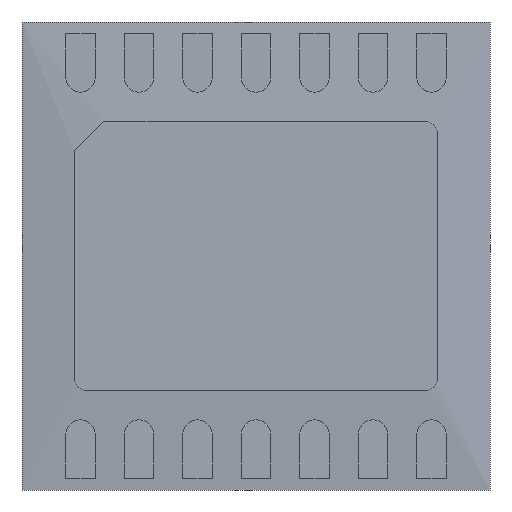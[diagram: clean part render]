
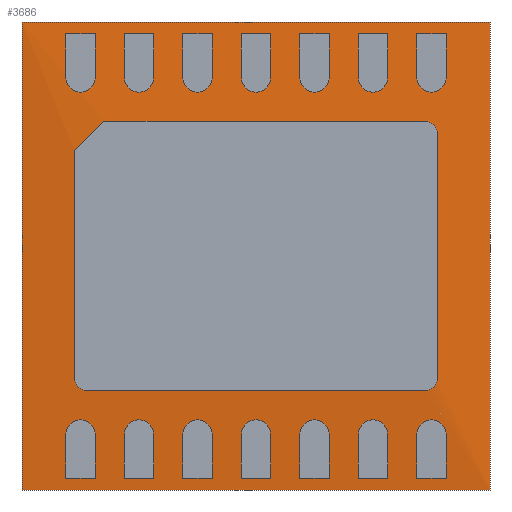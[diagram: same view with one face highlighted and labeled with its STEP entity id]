
A CAD part, front view. The second image highlights one B-rep face of the part: STEP entity #3686.
In plain terms, the highlighted planar face has unit normal (0, -1, 0).
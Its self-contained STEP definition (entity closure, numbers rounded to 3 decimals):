
#3460 = CARTESIAN_POINT ( 'NONE',  ( -2., 0.05, -2. ) ) ;
#3461 = VERTEX_POINT ( 'NONE', #3460 ) ;
#3462 = CARTESIAN_POINT ( 'NONE',  ( -2., 0.05, 2. ) ) ;
#3463 = VERTEX_POINT ( 'NONE', #3462 ) ;
#3464 = CARTESIAN_POINT ( 'NONE',  ( -2., 0.05, 2. ) ) ;
#3465 = DIRECTION ( 'NONE',  ( 0., 0., 1. ) ) ;
#3466 = VECTOR ( 'NONE', #3465, 1000. ) ;
#3467 = LINE ( 'NONE', #3464, #3466 ) ;
#3468 = EDGE_CURVE ( 'NONE', #3461, #3463, #3467, .T. ) ;
#3500 = CARTESIAN_POINT ( 'NONE',  ( 2., 0.05, 2. ) ) ;
#3501 = VERTEX_POINT ( 'NONE', #3500 ) ;
#3502 = CARTESIAN_POINT ( 'NONE',  ( 2., 0.05, 2. ) ) ;
#3503 = DIRECTION ( 'NONE',  ( 1., 0., 0. ) ) ;
#3504 = VECTOR ( 'NONE', #3503, 1000. ) ;
#3505 = LINE ( 'NONE', #3502, #3504 ) ;
#3506 = EDGE_CURVE ( 'NONE', #3463, #3501, #3505, .T. ) ;
#3531 = CARTESIAN_POINT ( 'NONE',  ( 2., 0.05, -2. ) ) ;
#3532 = VERTEX_POINT ( 'NONE', #3531 ) ;
#3533 = CARTESIAN_POINT ( 'NONE',  ( 2., 0.05, 2. ) ) ;
#3534 = DIRECTION ( 'NONE',  ( 0., 0., -1. ) ) ;
#3535 = VECTOR ( 'NONE', #3534, 1000. ) ;
#3536 = LINE ( 'NONE', #3533, #3535 ) ;
#3537 = EDGE_CURVE ( 'NONE', #3501, #3532, #3536, .T. ) ;
#3562 = CARTESIAN_POINT ( 'NONE',  ( 2., 0.05, -2. ) ) ;
#3563 = DIRECTION ( 'NONE',  ( -1., 0., 0. ) ) ;
#3564 = VECTOR ( 'NONE', #3563, 1000. ) ;
#3565 = LINE ( 'NONE', #3562, #3564 ) ;
#3566 = EDGE_CURVE ( 'NONE', #3532, #3461, #3565, .T. ) ;
#3606 = CARTESIAN_POINT ( 'NONE',  ( 1.55, 0., -1.05 ) ) ;
#3607 = VERTEX_POINT ( 'NONE', #3606 ) ;
#3608 = CARTESIAN_POINT ( 'NONE',  ( 1.55, 0., 1.05 ) ) ;
#3609 = VERTEX_POINT ( 'NONE', #3608 ) ;
#3610 = CARTESIAN_POINT ( 'NONE',  ( 1.55, 0., -1.15 ) ) ;
#3611 = DIRECTION ( 'NONE',  ( 0., 0., 1. ) ) ;
#3612 = VECTOR ( 'NONE', #3611, 1000. ) ;
#3613 = LINE ( 'NONE', #3610, #3612 ) ;
#3614 = EDGE_CURVE ( 'NONE', #3607, #3609, #3613, .T. ) ;
#3615 = ORIENTED_EDGE ( 'NONE', *, *, #3614, .F. ) ;
#3616 = CARTESIAN_POINT ( 'NONE',  ( 1.45, 0., -1.15 ) ) ;
#3617 = VERTEX_POINT ( 'NONE', #3616 ) ;
#3618 = CARTESIAN_POINT ( 'NONE',  ( 1.45, 0., -1.05 ) ) ;
#3619 = DIRECTION ( 'NONE',  ( 0., 1., 0. ) ) ;
#3620 = DIRECTION ( 'NONE',  ( 0., 0., -1. ) ) ;
#3621 = AXIS2_PLACEMENT_3D ( 'NONE', #3618, #3619, #3620 ) ;
#3622 = CIRCLE ( 'NONE', #3621, 0.1) ;
#3623 = EDGE_CURVE ( 'NONE', #3607, #3617, #3622, .T. ) ;
#3624 = ORIENTED_EDGE ( 'NONE', *, *, #3623, .T. ) ;
#3625 = CARTESIAN_POINT ( 'NONE',  ( -1.45, 0., -1.15 ) ) ;
#3626 = VERTEX_POINT ( 'NONE', #3625 ) ;
#3627 = CARTESIAN_POINT ( 'NONE',  ( -1.55, 0., -1.15 ) ) ;
#3628 = DIRECTION ( 'NONE',  ( 1., 0., 0. ) ) ;
#3629 = VECTOR ( 'NONE', #3628, 1000. ) ;
#3630 = LINE ( 'NONE', #3627, #3629 ) ;
#3631 = EDGE_CURVE ( 'NONE', #3626, #3617, #3630, .T. ) ;
#3632 = ORIENTED_EDGE ( 'NONE', *, *, #3631, .F. ) ;
#3633 = CARTESIAN_POINT ( 'NONE',  ( -1.55, 0., -1.05 ) ) ;
#3634 = VERTEX_POINT ( 'NONE', #3633 ) ;
#3635 = CARTESIAN_POINT ( 'NONE',  ( -1.45, 0., -1.05 ) ) ;
#3636 = DIRECTION ( 'NONE',  ( 0., 1., 0. ) ) ;
#3637 = DIRECTION ( 'NONE',  ( 0., 0., -1. ) ) ;
#3638 = AXIS2_PLACEMENT_3D ( 'NONE', #3635, #3636, #3637 ) ;
#3639 = CIRCLE ( 'NONE', #3638, 0.1) ;
#3640 = EDGE_CURVE ( 'NONE', #3626, #3634, #3639, .T. ) ;
#3641 = ORIENTED_EDGE ( 'NONE', *, *, #3640, .T. ) ;
#3642 = CARTESIAN_POINT ( 'NONE',  ( -1.55, 0., 0.9 ) ) ;
#3643 = VERTEX_POINT ( 'NONE', #3642 ) ;
#3644 = CARTESIAN_POINT ( 'NONE',  ( -1.55, 0., -1.15 ) ) ;
#3645 = DIRECTION ( 'NONE',  ( 0., 0., -1. ) ) ;
#3646 = VECTOR ( 'NONE', #3645, 1000. ) ;
#3647 = LINE ( 'NONE', #3644, #3646 ) ;
#3648 = EDGE_CURVE ( 'NONE', #3643, #3634, #3647, .T. ) ;
#3649 = ORIENTED_EDGE ( 'NONE', *, *, #3648, .F. ) ;
#3650 = CARTESIAN_POINT ( 'NONE',  ( -1.3, 0., 1.15 ) ) ;
#3651 = VERTEX_POINT ( 'NONE', #3650 ) ;
#3652 = CARTESIAN_POINT ( 'NONE',  ( -1.55, 0., 0.9 ) ) ;
#3653 = DIRECTION ( 'NONE',  ( 0.707, 0., 0.707 ) ) ;
#3654 = VECTOR ( 'NONE', #3653, 1000. ) ;
#3655 = LINE ( 'NONE', #3652, #3654 ) ;
#3656 = EDGE_CURVE ( 'NONE', #3643, #3651, #3655, .T. ) ;
#3657 = ORIENTED_EDGE ( 'NONE', *, *, #3656, .T. ) ;
#3658 = CARTESIAN_POINT ( 'NONE',  ( 1.45, 0., 1.15 ) ) ;
#3659 = VERTEX_POINT ( 'NONE', #3658 ) ;
#3660 = CARTESIAN_POINT ( 'NONE',  ( -1.55, 0., 1.15 ) ) ;
#3661 = DIRECTION ( 'NONE',  ( -1., 0., 0. ) ) ;
#3662 = VECTOR ( 'NONE', #3661, 1000. ) ;
#3663 = LINE ( 'NONE', #3660, #3662 ) ;
#3664 = EDGE_CURVE ( 'NONE', #3659, #3651, #3663, .T. ) ;
#3665 = ORIENTED_EDGE ( 'NONE', *, *, #3664, .F. ) ;
#3666 = CARTESIAN_POINT ( 'NONE',  ( 1.45, 0., 1.05 ) ) ;
#3667 = DIRECTION ( 'NONE',  ( 0., 1., 0. ) ) ;
#3668 = DIRECTION ( 'NONE',  ( 0., 0., -1. ) ) ;
#3669 = AXIS2_PLACEMENT_3D ( 'NONE', #3666, #3667, #3668 ) ;
#3670 = CIRCLE ( 'NONE', #3669, 0.1) ;
#3671 = EDGE_CURVE ( 'NONE', #3659, #3609, #3670, .T. ) ;
#3672 = ORIENTED_EDGE ( 'NONE', *, *, #3671, .T. ) ;
#3673 = EDGE_LOOP ( 'NONE', ( #3615, #3624, #3632, #3641, #3649, #3657, #3665, #3672 ) ) ;
#3674 = FACE_BOUND ( 'NONE', #3673, .T. ) ;
#3675 = ORIENTED_EDGE ( 'NONE', *, *, #3468, .F. ) ;
#3676 = ORIENTED_EDGE ( 'NONE', *, *, #3566, .F. ) ;
#3677 = ORIENTED_EDGE ( 'NONE', *, *, #3537, .F. ) ;
#3678 = ORIENTED_EDGE ( 'NONE', *, *, #3506, .F. ) ;
#3679 = EDGE_LOOP ( 'NONE', ( #3675, #3676, #3677, #3678 ) ) ;
#3680 = FACE_OUTER_BOUND ( 'NONE', #3679, .T. ) ;
#3681 = CARTESIAN_POINT ( 'NONE',  ( 0., 0.05, 0. ) ) ;
#3682 = DIRECTION ( 'NONE',  ( 0., 1., 0. ) ) ;
#3683 = DIRECTION ( 'NONE',  ( 0., 0., 1. ) ) ;
#3684 = AXIS2_PLACEMENT_3D ( 'NONE', #3681, #3682, #3683 ) ;
#3685 = PLANE ( 'NONE', #3684 ) ;
#3686 = ADVANCED_FACE ( 'NONE', ( #3674, #3680 ), #3685, .F. ) ;
